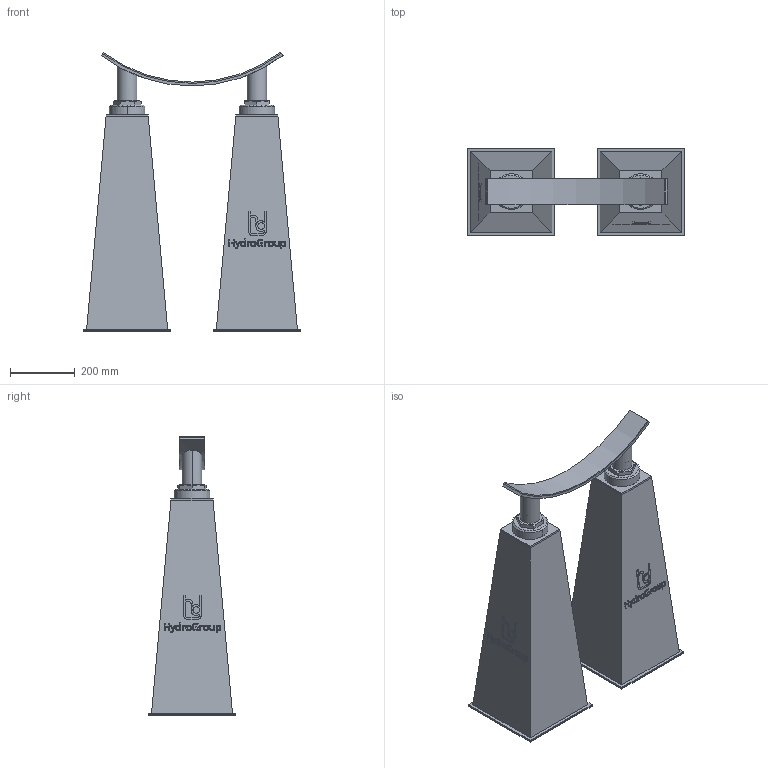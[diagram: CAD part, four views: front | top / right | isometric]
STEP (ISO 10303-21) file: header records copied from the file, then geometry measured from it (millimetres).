
FILE_DESCRIPTION(('STEP AP214'),'1');
FILE_NAME('RSRFE-I-DUO_DN900.stp','2018-06-27T13:46:46',(' '),(' '),'Spatial InterOp 3D',' ',' ');
FILE_SCHEMA(('automotive_design'));
Length unit declared in the file: millimetre
Products named in the file (10): 1; 2; 3; 4; 5; 6; 7; 8; 9; 10
Bounding box: 670 x 270 x 862.15 mm (x, y, z)
Volume: 53195770.2 mm3; surface area: 1969918.8 mm2
Topology: 10 solids, 12 shells, 424 faces, 1050 edges, 688 vertices
Faces by surface type: plane 272, cylinder 72, extrusion 48, cone 32
Entity records: 17877 total; most frequent: CARTESIAN_POINT 4300, ORIENTED_EDGE 2100, DIRECTION 1894, EDGE_CURVE 1050, VECTOR 810, LINE 762, VERTEX_POINT 688, AXIS2_PLACEMENT_3D 542
